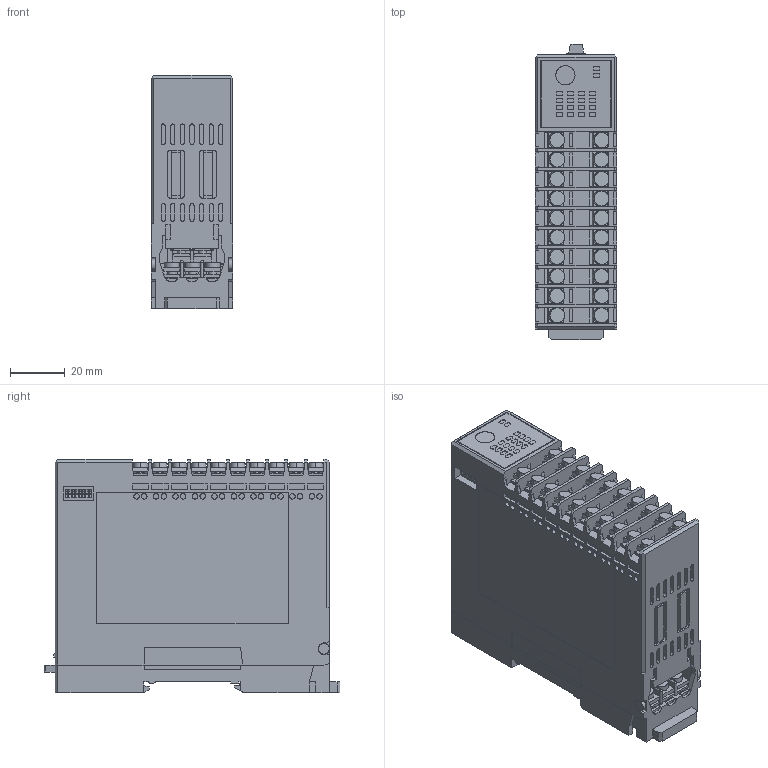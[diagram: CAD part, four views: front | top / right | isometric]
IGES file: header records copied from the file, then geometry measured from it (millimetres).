
Start section: SolidWorks IGES file using analytic representation for surfaces
Global section: file name: 5HD:\KK\CAD_DATA\Q\Q僔儕乕僘\QPM1\D24-019\HP_3D\QPM1-PI16仩PT丒CC\AS_QPM1-PI16仩CT丒PT_260616.IGS; native system: SolidWorks 2025; preprocessor: SolidWorks 2025; author: kawahara; date: 260616.155139; units: millimetre
Bounding box: 29.8 x 107.8 x 85.1 mm (x, y, z)
Surface area: 47112.4 mm2 (no closed solid volume)
Topology: 0 solids, 0 shells, 1968 faces, 17498 edges, 17496 vertices
Faces by surface type: bspline 1523, revolution 445
